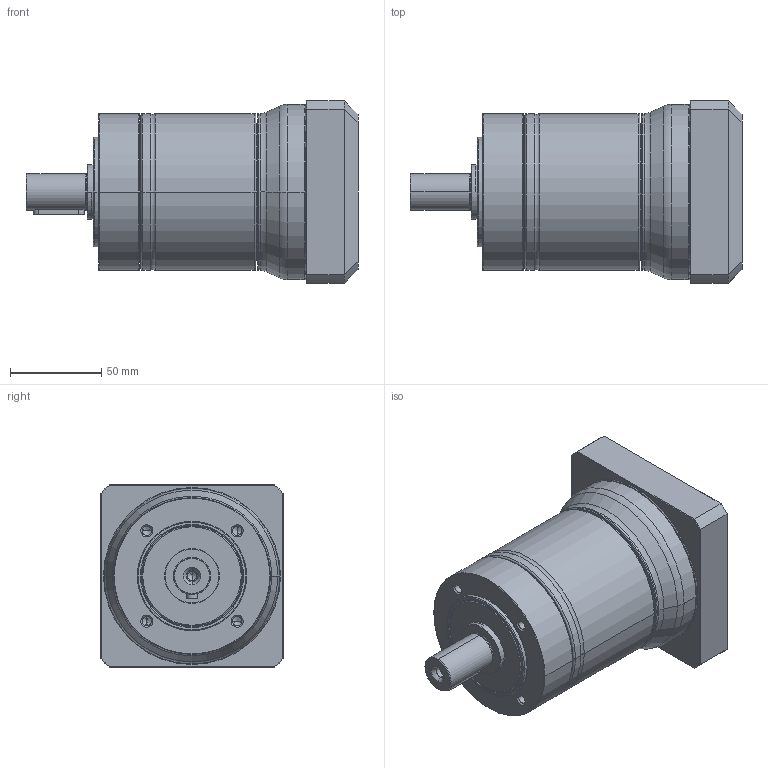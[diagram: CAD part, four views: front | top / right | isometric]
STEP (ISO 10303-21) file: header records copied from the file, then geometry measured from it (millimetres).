
FILE_DESCRIPTION((''),'2;1');
FILE_NAME('PG2-080_2ST_24-P0411500101_ASM','2016-04-13T',('d01943'),(''),'PRO/ENGINEER BY PARAMETRIC TECHNOLOGY CORPORATION, 2008410','PRO/ENGINEER BY PARAMETRIC TECHNOLOGY CORPORATION, 2008410','');
FILE_SCHEMA(('CONFIG_CONTROL_DESIGN'));
Length unit declared in the file: millimetre
Products named in the file (9): P1325310001; P0251300001; P1324300201; P0350301103; P0941302001; P0503500008; P0411500101; P1702500001; PG2-080_2ST_24-P0411500101_ASM
Assembly tree (8 placements, depth 2):
  PG2-080_2ST_24-P0411500101_ASM
    P1325310001
    P0251300001
    P1324300201
    P0350301103
    P0941302001
    P0503500008
    P0411500101
    P1702500001
Bounding box: 182 x 100 x 100 mm (x, y, z)
Volume: 646721.1 mm3; surface area: 155619.4 mm2
Topology: 8 solids, 9 shells, 475 faces, 1045 edges, 601 vertices
Faces by surface type: cone 142, cylinder 139, torus 98, plane 80, bspline 16
Entity records: 17639 total; most frequent: CARTESIAN_POINT 6954, DIRECTION 2437, ORIENTED_EDGE 2022, AXIS2_PLACEMENT_3D 1045, EDGE_CURVE 1011, VERTEX_POINT 601, CIRCLE 569, EDGE_LOOP 540
